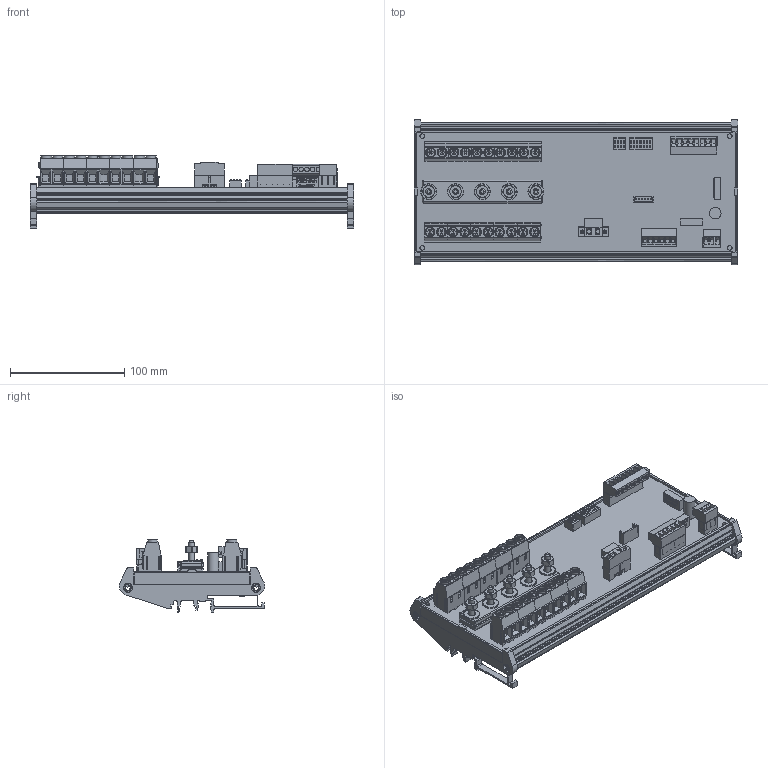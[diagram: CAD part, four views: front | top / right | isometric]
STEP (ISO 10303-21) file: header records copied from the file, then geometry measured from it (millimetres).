
FILE_DESCRIPTION(('FreeCAD Model'),'2;1');
FILE_NAME('C:/3D Files/Stringhe/ST0N/ST0N2025/ST0N2025.step', '2021-01-27T14:28:15',('Author'),(''), 'Open CASCADE STEP processor 7.2','FreeCAD','Unknown');
FILE_SCHEMA(('AUTOMOTIVE_DESIGN { 1 0 10303 214 1 1 1 1 }'));
Length unit declared in the file: millimetre
Products named in the file (45): ST0N2025; Mstb_3P_F; Mstb_6P_F; Mstb_3Pc_M; Mstb_6Pc_M; AmpModu_6P_M; DipSwitch8; DipSwitch4; Dado6MA003; Dado6MA004; Dado6MA005; Dado6MA006; Rondella6; Rondella007; Rondella008; Rondella009; CH_01-02; CH_03-04; CH_05-06; CH_11-12; CH_13-14; CH_15-16; CN3_M; CN3_F; IB2405LS-1W; ELNA_470_uF_35_V; VTBSE-6x35; VTBSE-6x031; VTBSE-6x032; VTBSE-6x033; CH_07-08; CH_17-18; Mstb_8P_F; Mstb_8Pc_M; IB2405LS-1W001; CH_09-10; CH_19-20; Barra_105_mm001; Barra_105_mm002; Barra_105_mm003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
Assembly tree (44 placements, depth 2):
  ST0N2025
    Mstb_3P_F
    Mstb_6P_F
    Mstb_3Pc_M
    Mstb_6Pc_M
    AmpModu_6P_M
    DipSwitch8
    DipSwitch4
    Dado6MA003
    Dado6MA004
    Dado6MA005
    Dado6MA006
    Rondella6
    Rondella007
    Rondella008
    Rondella009
    CH_01-02
    CH_03-04
    CH_05-06
    CH_11-12
    CH_13-14
    CH_15-16
    CN3_M
    CN3_F
    IB2405LS-1W
    ELNA_470_uF_35_V
    VTBSE-6x35
    VTBSE-6x031
    VTBSE-6x032
    VTBSE-6x033
    CH_07-08
    CH_17-18
    Mstb_8P_F
    Mstb_8Pc_M
    IB2405LS-1W001
    CH_09-10
    CH_19-20
    Barra_105_mm001
    Barra_105_mm002
    Barra_105_mm003
    Stampato_279,7_x_108
    VTBSE-6x034
    Rondella010
    Dado6MA007
    Profilo_284x128
Bounding box: 284 x 127.59 x 63.19 mm (x, y, z)
Volume: 295791.6 mm3; surface area: 299972.1 mm2
Topology: 72 solids, 108 shells, 4819 faces, 14793 edges, 14967 vertices
Faces by surface type: plane 3611, cylinder 825, bspline 185, cone 107, torus 57, sphere 32, extrusion 2
Full cylindrical faces by diameter (mm): 0.5 x8, 0.75 x36, 1 x2, 1.5 x17, 1.6 x2, 1.8 x2, 2.05 x2, 2.5 x2, 3.3 x2, 3.5 x2, 3.8 x2, 4 x25, 4.3 x2, 4.917 x5, 5 x10, 6.6 x5, 7 x15, 7.2 x20, 7.5 x20, 7.9 x4, 8.66 x20, 9.202 x2, 10 x6, 14 x5
Entity records: 382507 total; most frequent: CARTESIAN_POINT 84347, DIRECTION 47706, VECTOR 32110, LINE 32108, ORIENTED_EDGE 25708, PCURVE 25708, DEFINITIONAL_REPRESENTATION 25708, EDGE_CURVE 13167
